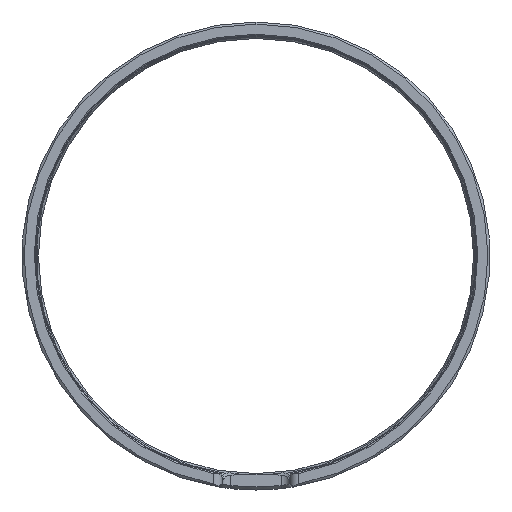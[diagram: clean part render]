
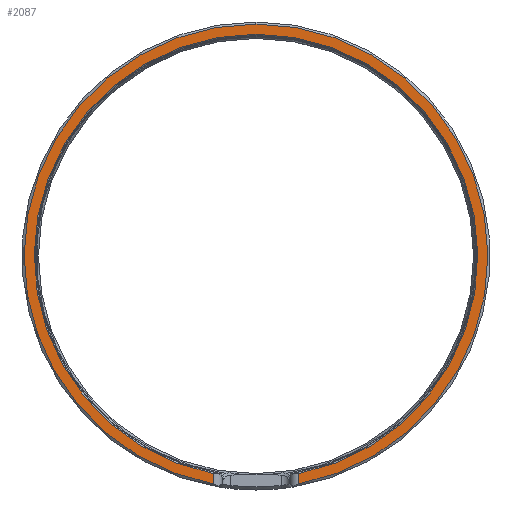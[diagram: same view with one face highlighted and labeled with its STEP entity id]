
A CAD part, left-side view. The second image highlights one B-rep face of the part: STEP entity #2087.
In plain terms, the highlighted planar face has unit normal (-1, 0, 0).
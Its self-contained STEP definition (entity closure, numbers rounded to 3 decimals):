
#11 = ORIENTED_EDGE ( 'NONE', *, *, #414, .T. ) ;
#52 = CARTESIAN_POINT ( 'NONE',  ( -400., 0., 0. ) ) ;
#62 = ORIENTED_EDGE ( 'NONE', *, *, #4586, .F. ) ;
#125 = LINE ( 'NONE', #4431, #967 ) ;
#292 = DIRECTION ( 'NONE',  ( 0., 0., -1. ) ) ;
#331 = VERTEX_POINT ( 'NONE', #1436 ) ;
#414 = EDGE_CURVE ( 'NONE', #1619, #2307, #4526, .T. ) ;
#649 = FACE_OUTER_BOUND ( 'NONE', #3816, .T. ) ;
#848 = CARTESIAN_POINT ( 'NONE',  ( -400., 0., 0. ) ) ;
#882 = VERTEX_POINT ( 'NONE', #1635 ) ;
#903 = ORIENTED_EDGE ( 'NONE', *, *, #4416, .F. ) ;
#967 = VECTOR ( 'NONE', #3022, 1000. ) ;
#1080 = DIRECTION ( 'NONE',  ( 0., 0., 1. ) ) ;
#1104 = AXIS2_PLACEMENT_3D ( 'NONE', #1588, #3021, #1229 ) ;
#1229 = DIRECTION ( 'NONE',  ( 0., 0., 1. ) ) ;
#1236 = ORIENTED_EDGE ( 'NONE', *, *, #4561, .T. ) ;
#1436 = CARTESIAN_POINT ( 'NONE',  ( -400., -10.2, -54.555 ) ) ;
#1577 = CARTESIAN_POINT ( 'NONE',  ( -400., 10.2, -54.555 ) ) ;
#1586 = DIRECTION ( 'NONE',  ( 0., 0., 1. ) ) ;
#1588 = CARTESIAN_POINT ( 'NONE',  ( -400., 0., 0. ) ) ;
#1619 = VERTEX_POINT ( 'NONE', #1976 ) ;
#1635 = CARTESIAN_POINT ( 'NONE',  ( -400., -10.2, -52.086 ) ) ;
#1651 = CARTESIAN_POINT ( 'NONE',  ( -400., 10.2, -52.086 ) ) ;
#1728 = PLANE ( 'NONE',  #4335 ) ;
#1976 = CARTESIAN_POINT ( 'NONE',  ( -400., 0., 55.5 ) ) ;
#2051 = CARTESIAN_POINT ( 'NONE',  ( -400., 0., 0. ) ) ;
#2087 = ADVANCED_FACE ( 'NONE', ( #649 ), #1728, .T. ) ;
#2250 = CIRCLE ( 'NONE', #1104, 55.5 ) ;
#2307 = VERTEX_POINT ( 'NONE', #1577 ) ;
#2492 = AXIS2_PLACEMENT_3D ( 'NONE', #52, #3983, #1080 ) ;
#2596 = LINE ( 'NONE', #3327, #4517 ) ;
#2622 = DIRECTION ( 'NONE',  ( 0., 0., 1. ) ) ;
#2711 = AXIS2_PLACEMENT_3D ( 'NONE', #848, #4402, #1586 ) ;
#2843 = CIRCLE ( 'NONE', #2711, 53.075 ) ;
#2983 = EDGE_CURVE ( 'NONE', #331, #1619, #2250, .T. ) ;
#3013 = VERTEX_POINT ( 'NONE', #1651 ) ;
#3021 = DIRECTION ( 'NONE',  ( -1., 0., 0. ) ) ;
#3022 = DIRECTION ( 'NONE',  ( 0., 0., 1. ) ) ;
#3327 = CARTESIAN_POINT ( 'NONE',  ( -400., 10.2, -56. ) ) ;
#3816 = EDGE_LOOP ( 'NONE', ( #62, #3840, #11, #1236, #903 ) ) ;
#3840 = ORIENTED_EDGE ( 'NONE', *, *, #2983, .T. ) ;
#3983 = DIRECTION ( 'NONE',  ( -1., 0., 0. ) ) ;
#4233 = DIRECTION ( 'NONE',  ( -1., 0., 0. ) ) ;
#4335 = AXIS2_PLACEMENT_3D ( 'NONE', #2051, #4233, #292 ) ;
#4402 = DIRECTION ( 'NONE',  ( -1., 0., 0. ) ) ;
#4416 = EDGE_CURVE ( 'NONE', #882, #3013, #2843, .T. ) ;
#4431 = CARTESIAN_POINT ( 'NONE',  ( -400., -10.2, -56. ) ) ;
#4517 = VECTOR ( 'NONE', #2622, 1000. ) ;
#4526 = CIRCLE ( 'NONE', #2492, 55.5 ) ;
#4561 = EDGE_CURVE ( 'NONE', #2307, #3013, #2596, .T. ) ;
#4586 = EDGE_CURVE ( 'NONE', #331, #882, #125, .T. ) ;
